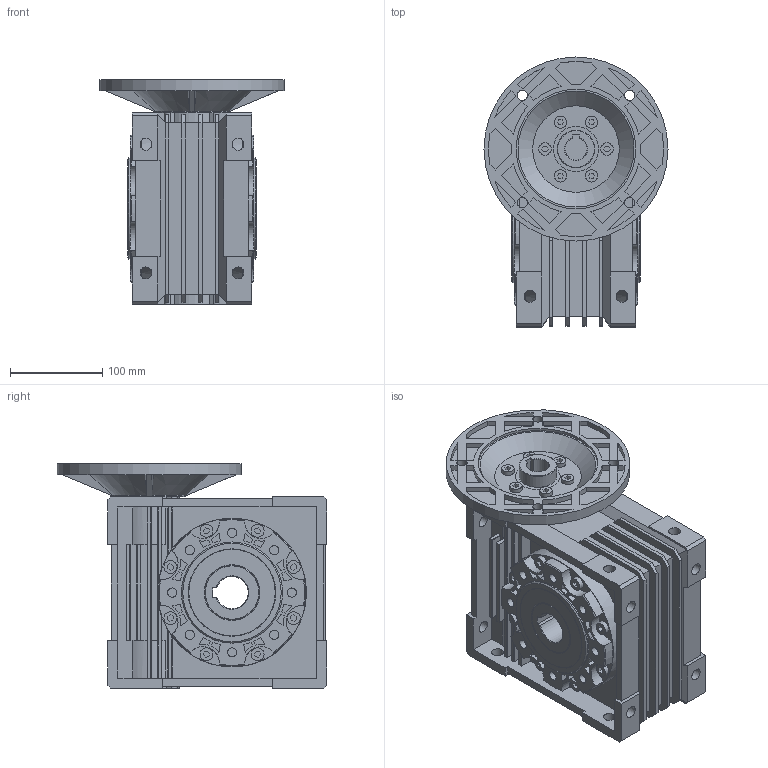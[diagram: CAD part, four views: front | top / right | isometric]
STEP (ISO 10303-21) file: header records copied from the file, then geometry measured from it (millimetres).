
FILE_DESCRIPTION(/* description */ (''),/* implementation_level */ '2;1');
FILE_NAME(/* name */ 'Z:\동력 3D 파일\PCMRV090_90B5_3D.stp',/* time_stamp */ '2021-12-01T17:31:34+09:00',/* author */ ('jaebok'),/* organization */ (''),/* preprocessor_version */ 'ST-DEVELOPER v18.1',/* originating_system */ 'Autodesk Inventor 2022',/* authorisation */ '');
FILE_SCHEMA (('AUTOMOTIVE_DESIGN { 1 0 10303 214 3 1 1 }'));
Length unit declared in the file: millimetre
Products named in the file (1): 부품54
Bounding box: 200 x 293 x 244 mm (x, y, z)
Volume: 5157830.5 mm3; surface area: 480309.4 mm2
Topology: 1 solids, 6 shells, 1013 faces, 2566 edges, 1697 vertices
Faces by surface type: plane 661, cylinder 319, cone 33
Full cylindrical faces by diameter (mm): 4.239 x8, 10 x16, 11 x4, 13 x16, 13.331 x6, 14 x16, 40.8 x1, 48.96 x1, 55.525 x2, 56.525 x2, 59.5 x2, 79 x1, 95 x2, 110 x2, 130 x1, 161.6 x2, 200 x1
Entity records: 31813 total; most frequent: CARTESIAN_POINT 5541, DIRECTION 5268, ORIENTED_EDGE 5132, EDGE_CURVE 2566, LINE 1780, VECTOR 1780, AXIS2_PLACEMENT_3D 1744, VERTEX_POINT 1697
